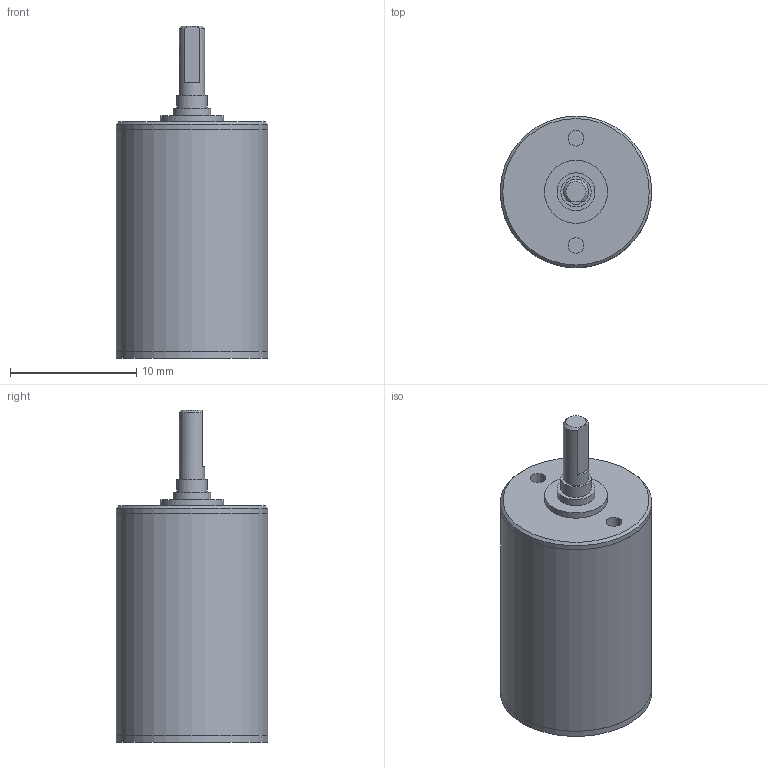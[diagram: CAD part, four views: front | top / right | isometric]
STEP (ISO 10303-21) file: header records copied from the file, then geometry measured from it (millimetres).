
FILE_DESCRIPTION(/* description */ (''),/* implementation_level */ '2;1');
FILE_NAME(/* name */ '12-5_5.stp',/* time_stamp */ '2016-08-24T11:33:39+02:00',/* author */ ('DR. FRITZ FAULHABER GmbH & Co. KG'),/* organization */ ('DR. FRITZ FAULHABER GmbH & Co. KG'),/* preprocessor_version */ 'ST-DEVELOPER v16',/* originating_system */ 'SIEMENS PLM Software NX 10.0',/* authorisation */ '');
FILE_SCHEMA (('AUTOMOTIVE_DESIGN { 1 0 10303 214 3 1 1 1 }'));
Length unit declared in the file: millimetre
Products named in the file (1): H00000604_A
Bounding box: 12 x 12 x 26.3 mm (x, y, z)
Volume: 2071.3 mm3; surface area: 1069.2 mm2
Topology: 1 solids, 1 shells, 35 faces, 58 edges, 38 vertices
Faces by surface type: plane 17, cylinder 15, cone 3
Full cylindrical faces by diameter (mm): 1.25 x2, 2 x1, 2.4 x1, 2.48 x1, 2.6 x1, 3 x1, 5 x2, 6 x1, 11.99 x2, 12 x3
Entity records: 749 total; most frequent: DIRECTION 141, CARTESIAN_POINT 121, ORIENTED_EDGE 76, AXIS2_PLACEMENT_3D 69, EDGE_LOOP 65, FACE_BOUND 58, EDGE_CURVE 38, ADVANCED_FACE 35
